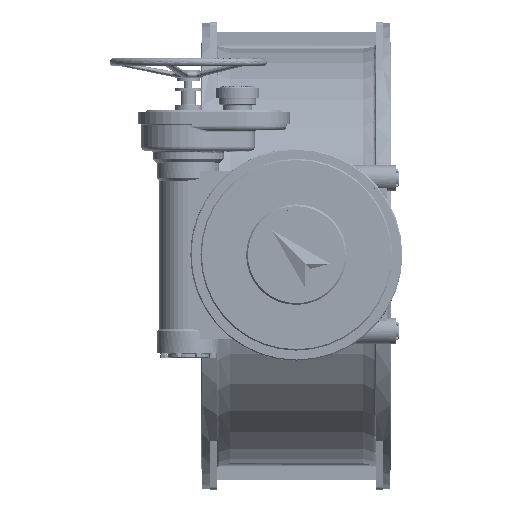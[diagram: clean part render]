
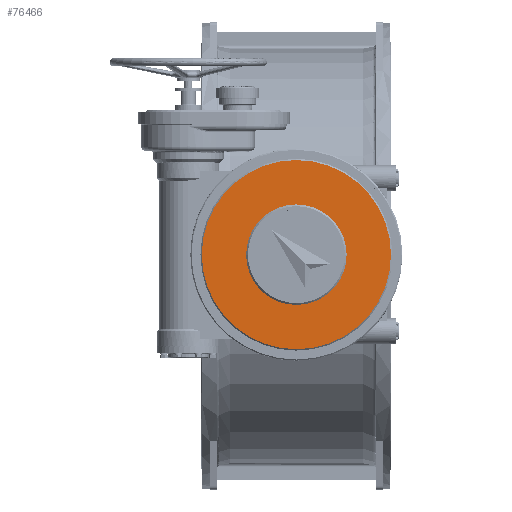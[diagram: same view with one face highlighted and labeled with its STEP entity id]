
A CAD part, top view. The second image highlights one B-rep face of the part: STEP entity #76466.
In plain terms, the highlighted planar face has unit normal (0, 0, 1) as drawn and (-1, 0, 0) by its records, which use the part's own axes.
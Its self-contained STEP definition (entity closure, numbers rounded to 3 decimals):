
#2037 = CIRCLE ( 'NONE', #3155, 433. ) ;
#2038 = CIRCLE ( 'NONE', #3159, 230. ) ;
#3155 = AXIS2_PLACEMENT_3D ( 'NONE', #19360, #19361, #19363 ) ;
#3159 = AXIS2_PLACEMENT_3D ( 'NONE', #19369, #19371, #19373 ) ;
#19360 = CARTESIAN_POINT ( 'NONE',  ( 5913.071, 638.205, 0. ) ) ;
#19361 = DIRECTION ( 'NONE',  ( -1., 0., 0. ) ) ;
#19363 = DIRECTION ( 'NONE',  ( 0., 0., 1. ) ) ;
#19369 = CARTESIAN_POINT ( 'NONE',  ( 5913.071, 638.205, 0. ) ) ;
#19371 = DIRECTION ( 'NONE',  ( -1., 0., 0. ) ) ;
#19373 = DIRECTION ( 'NONE',  ( 0., 0., 1. ) ) ;
#62590 = AXIS2_PLACEMENT_3D ( 'NONE', #67371, #67381, #67382 ) ;
#63428 = AXIS2_PLACEMENT_3D ( 'NONE', #169510, #169512, #169514 ) ;
#63431 = AXIS2_PLACEMENT_3D ( 'NONE', #169524, #169526, #169528 ) ;
#65395 = FACE_OUTER_BOUND ( 'NONE', #111577, .T. ) ;
#65396 = FACE_BOUND ( 'NONE', #111584, .T. ) ;
#67371 = CARTESIAN_POINT ( 'NONE',  ( 5913.071, 868.205, 0. ) ) ;
#67379 = PLANE ( 'NONE',  #62590 ) ;
#67381 = DIRECTION ( 'NONE',  ( 1., 0., 0. ) ) ;
#67382 = DIRECTION ( 'NONE',  ( 0., 0., -1. ) ) ;
#68324 = CARTESIAN_POINT ( 'NONE',  ( 5913.071, 638.205, 433. ) ) ;
#68330 = CARTESIAN_POINT ( 'NONE',  ( 5913.071, 638.205, -433. ) ) ;
#68333 = CARTESIAN_POINT ( 'NONE',  ( 5913.071, 638.205, 230. ) ) ;
#68337 = CARTESIAN_POINT ( 'NONE',  ( 5913.071, 638.205, -230. ) ) ;
#76466 = ADVANCED_FACE ( 'NONE', ( #65396, #65395 ), #67379, .F. ) ;
#102149 = EDGE_CURVE ( 'NONE', #137486, #137508, #166631, .T. ) ;
#102153 = EDGE_CURVE ( 'NONE', #137453, #137482, #166633, .T. ) ;
#111577 = EDGE_LOOP ( 'NONE', ( #120130, #120134 ) ) ;
#111584 = EDGE_LOOP ( 'NONE', ( #120123, #120126 ) ) ;
#120123 = ORIENTED_EDGE ( 'NONE', *, *, #130278, .F. ) ;
#120126 = ORIENTED_EDGE ( 'NONE', *, *, #102149, .F. ) ;
#120130 = ORIENTED_EDGE ( 'NONE', *, *, #130275, .T. ) ;
#120134 = ORIENTED_EDGE ( 'NONE', *, *, #102153, .T. ) ;
#130275 = EDGE_CURVE ( 'NONE', #137482, #137453, #2037, .T. ) ;
#130278 = EDGE_CURVE ( 'NONE', #137508, #137486, #2038, .T. ) ;
#137453 = VERTEX_POINT ( 'NONE', #68324 ) ;
#137482 = VERTEX_POINT ( 'NONE', #68330 ) ;
#137486 = VERTEX_POINT ( 'NONE', #68333 ) ;
#137508 = VERTEX_POINT ( 'NONE', #68337 ) ;
#166631 = CIRCLE ( 'NONE', #63428, 230. ) ;
#166633 = CIRCLE ( 'NONE', #63431, 433. ) ;
#169510 = CARTESIAN_POINT ( 'NONE',  ( 5913.071, 638.205, 0. ) ) ;
#169512 = DIRECTION ( 'NONE',  ( -1., 0., 0. ) ) ;
#169514 = DIRECTION ( 'NONE',  ( 0., 0., 1. ) ) ;
#169524 = CARTESIAN_POINT ( 'NONE',  ( 5913.071, 638.205, 0. ) ) ;
#169526 = DIRECTION ( 'NONE',  ( -1., 0., 0. ) ) ;
#169528 = DIRECTION ( 'NONE',  ( 0., 0., 1. ) ) ;
